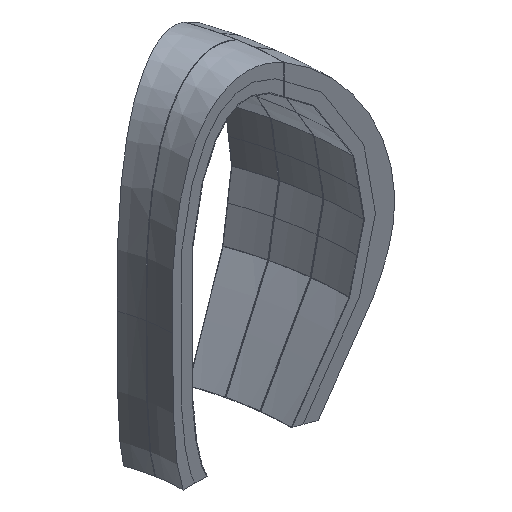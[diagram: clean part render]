
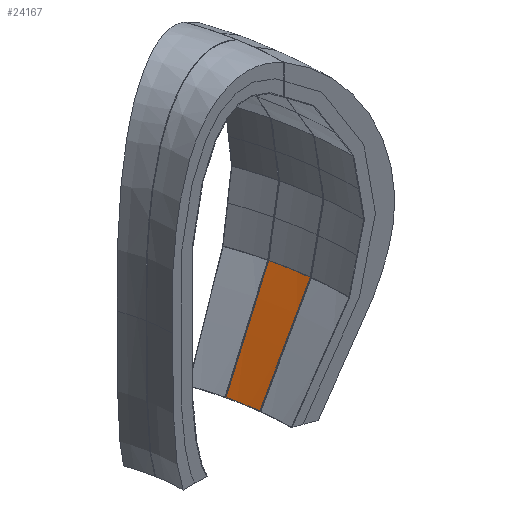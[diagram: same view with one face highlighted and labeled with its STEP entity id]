
A CAD part, isometric view. The second image highlights one B-rep face of the part: STEP entity #24167.
In plain terms, the highlighted conical face has half-angle 34.449 degrees and reference radius 11799.1 mm.
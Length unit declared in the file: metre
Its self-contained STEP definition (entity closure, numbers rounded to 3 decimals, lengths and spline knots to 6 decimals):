
#22973 = PLANE('',#22974);
#22974 = AXIS2_PLACEMENT_3D('',#22975,#22976,#22977);
#22975 = CARTESIAN_POINT('',(10.805535,1.273054,
    -0.034838));
#22976 = DIRECTION('',(0.116,-0.993,-0.));
#22977 = DIRECTION('',(0.,0.,-1.));
#23036 = PLANE('',#23037);
#23037 = AXIS2_PLACEMENT_3D('',#23038,#23039,#23040);
#23038 = CARTESIAN_POINT('',(10.589292,2.499431,
    -0.034838));
#23039 = DIRECTION('',(0.231,-0.973,-0.));
#23040 = DIRECTION('',(0.,0.,-1.));
#23290 = VERTEX_POINT('',#23291);
#23291 = CARTESIAN_POINT('',(11.718153,1.379724,
    -2.309038));
#23306 = CONICAL_SURFACE('',#23307,12.353104,0.242);
#23307 = AXIS2_PLACEMENT_3D('',#23308,#23309,#23310);
#23308 = CARTESIAN_POINT('',(0.,0.,-0.065718));
#23309 = DIRECTION('',(0.,0.,1.));
#23310 = DIRECTION('',(1.,0.,0.));
#23321 = EDGE_CURVE('',#23290,#23322,#23324,.T.);
#23322 = VERTEX_POINT('',#23323);
#23323 = CARTESIAN_POINT('',(9.574088,1.129118,
    -5.455879));
#23324 = SURFACE_CURVE('',#23325,(#23330,#23337),.PCURVE_S1.);
#23325 = HYPERBOLA('',#23326,0.014578,0.01);
#23326 = AXIS2_PLACEMENT_3D('',#23327,#23328,#23329);
#23327 = CARTESIAN_POINT('',(-0.001161,0.009932,
    -19.509468));
#23328 = DIRECTION('',(0.116,-0.993,-0.));
#23329 = DIRECTION('',(0.,-0.,1.));
#23330 = PCURVE('',#22973,#23331);
#23331 = DEFINITIONAL_REPRESENTATION('',(#23332),#23336);
#23332 = ( BOUNDED_CURVE() B_SPLINE_CURVE(2,(#23333,#23334,#23335),
.UNSPECIFIED.,.F.,.F.) B_SPLINE_CURVE_WITH_KNOTS((3,3),(-7.76634,
-7.564284),.PIECEWISE_BEZIER_KNOTS.) CURVE() 
GEOMETRIC_REPRESENTATION_ITEM() RATIONAL_B_SPLINE_CURVE((1.,
1.005,1.)) REPRESENTATION_ITEM('') );
#23333 = CARTESIAN_POINT('',(2.274,0.919));
#23334 = CARTESIAN_POINT('',(4.006,-0.269));
#23335 = CARTESIAN_POINT('',(5.421,-1.24));
#23336 = ( GEOMETRIC_REPRESENTATION_CONTEXT(2) 
PARAMETRIC_REPRESENTATION_CONTEXT() REPRESENTATION_CONTEXT('2D SPACE',''
  ) );
#23337 = PCURVE('',#23338,#23343);
#23338 = CONICAL_SURFACE('',#23339,11.7991,0.601);
#23339 = AXIS2_PLACEMENT_3D('',#23340,#23341,#23342);
#23340 = CARTESIAN_POINT('',(0.,0.,-2.309038));
#23341 = DIRECTION('',(0.,0.,1.));
#23342 = DIRECTION('',(1.,0.,0.));
#23343 = DEFINITIONAL_REPRESENTATION('',(#23344),#23351);
#23344 = B_SPLINE_CURVE_WITH_KNOTS('',5,(#23345,#23346,#23347,#23348,
    #23349,#23350),.UNSPECIFIED.,.F.,.F.,(6,6),(-7.76634,
    -7.564284),.PIECEWISE_BEZIER_KNOTS.);
#23345 = CARTESIAN_POINT('',(0.117,0.));
#23346 = CARTESIAN_POINT('',(0.117,-0.695));
#23347 = CARTESIAN_POINT('',(0.117,-1.355));
#23348 = CARTESIAN_POINT('',(0.117,-1.982));
#23349 = CARTESIAN_POINT('',(0.117,-2.579));
#23350 = CARTESIAN_POINT('',(0.117,-3.147));
#23351 = ( GEOMETRIC_REPRESENTATION_CONTEXT(2) 
PARAMETRIC_REPRESENTATION_CONTEXT() REPRESENTATION_CONTEXT('2D SPACE',''
  ) );
#23370 = CONICAL_SURFACE('',#23371,11.567405,1.309);
#23371 = AXIS2_PLACEMENT_3D('',#23372,#23373,#23374);
#23372 = CARTESIAN_POINT('',(0.,0.,-5.972207));
#23373 = DIRECTION('',(-0.,-0.,-1.));
#23374 = DIRECTION('',(1.,0.,-0.));
#23759 = VERTEX_POINT('',#23760);
#23760 = CARTESIAN_POINT('',(11.483355,2.711328,
    -2.309038));
#23785 = EDGE_CURVE('',#23759,#23786,#23788,.T.);
#23786 = VERTEX_POINT('',#23787);
#23787 = CARTESIAN_POINT('',(9.382881,2.213507,
    -5.455879));
#23788 = SURFACE_CURVE('',#23789,(#23794,#23801),.PCURVE_S1.);
#23789 = HYPERBOLA('',#23790,0.014578,0.01);
#23790 = AXIS2_PLACEMENT_3D('',#23791,#23792,#23793);
#23791 = CARTESIAN_POINT('',(0.002306,-0.00973,
    -19.509468));
#23792 = DIRECTION('',(0.231,-0.973,-0.));
#23793 = DIRECTION('',(0.,-0.,1.));
#23794 = PCURVE('',#23036,#23795);
#23795 = DEFINITIONAL_REPRESENTATION('',(#23796),#23800);
#23796 = ( BOUNDED_CURVE() B_SPLINE_CURVE(2,(#23797,#23798,#23799),
.UNSPECIFIED.,.F.,.F.) B_SPLINE_CURVE_WITH_KNOTS((3,3),(-7.76634,
-7.564284),.PIECEWISE_BEZIER_KNOTS.) CURVE() 
GEOMETRIC_REPRESENTATION_ITEM() RATIONAL_B_SPLINE_CURVE((1.,
1.005,1.)) REPRESENTATION_ITEM('') );
#23797 = CARTESIAN_POINT('',(2.274,0.919));
#23798 = CARTESIAN_POINT('',(4.006,-0.269));
#23799 = CARTESIAN_POINT('',(5.421,-1.24));
#23800 = ( GEOMETRIC_REPRESENTATION_CONTEXT(2) 
PARAMETRIC_REPRESENTATION_CONTEXT() REPRESENTATION_CONTEXT('2D SPACE',''
  ) );
#23801 = PCURVE('',#23338,#23802);
#23802 = DEFINITIONAL_REPRESENTATION('',(#23803),#23810);
#23803 = B_SPLINE_CURVE_WITH_KNOTS('',5,(#23804,#23805,#23806,#23807,
    #23808,#23809),.UNSPECIFIED.,.F.,.F.,(6,6),(-7.76634,
    -7.564284),.PIECEWISE_BEZIER_KNOTS.);
#23804 = CARTESIAN_POINT('',(0.232,0.));
#23805 = CARTESIAN_POINT('',(0.232,-0.695));
#23806 = CARTESIAN_POINT('',(0.232,-1.355));
#23807 = CARTESIAN_POINT('',(0.232,-1.982));
#23808 = CARTESIAN_POINT('',(0.232,-2.579));
#23809 = CARTESIAN_POINT('',(0.232,-3.147));
#23810 = ( GEOMETRIC_REPRESENTATION_CONTEXT(2) 
PARAMETRIC_REPRESENTATION_CONTEXT() REPRESENTATION_CONTEXT('2D SPACE',''
  ) );
#24146 = EDGE_CURVE('',#23322,#23786,#24147,.T.);
#24147 = SURFACE_CURVE('',#24148,(#24153,#24160),.PCURVE_S1.);
#24148 = CIRCLE('',#24149,9.640439);
#24149 = AXIS2_PLACEMENT_3D('',#24150,#24151,#24152);
#24150 = CARTESIAN_POINT('',(0.,0.,-5.455879));
#24151 = DIRECTION('',(0.,0.,1.));
#24152 = DIRECTION('',(1.,0.,-0.));
#24153 = PCURVE('',#23370,#24154);
#24154 = DEFINITIONAL_REPRESENTATION('',(#24155),#24159);
#24155 = LINE('',#24156,#24157);
#24156 = CARTESIAN_POINT('',(-0.,-0.516));
#24157 = VECTOR('',#24158,1.);
#24158 = DIRECTION('',(-1.,-0.));
#24159 = ( GEOMETRIC_REPRESENTATION_CONTEXT(2) 
PARAMETRIC_REPRESENTATION_CONTEXT() REPRESENTATION_CONTEXT('2D SPACE',''
  ) );
#24160 = PCURVE('',#23338,#24161);
#24161 = DEFINITIONAL_REPRESENTATION('',(#24162),#24166);
#24162 = LINE('',#24163,#24164);
#24163 = CARTESIAN_POINT('',(0.,-3.147));
#24164 = VECTOR('',#24165,1.);
#24165 = DIRECTION('',(1.,-0.));
#24166 = ( GEOMETRIC_REPRESENTATION_CONTEXT(2) 
PARAMETRIC_REPRESENTATION_CONTEXT() REPRESENTATION_CONTEXT('2D SPACE',''
  ) );
#24167 = ADVANCED_FACE('',(#24168),#23338,.F.);
#24168 = FACE_BOUND('',#24169,.T.);
#24169 = EDGE_LOOP('',(#24170,#24171,#24193,#24194));
#24170 = ORIENTED_EDGE('',*,*,#23321,.F.);
#24171 = ORIENTED_EDGE('',*,*,#24172,.T.);
#24172 = EDGE_CURVE('',#23290,#23759,#24173,.T.);
#24173 = SURFACE_CURVE('',#24174,(#24179,#24186),.PCURVE_S1.);
#24174 = CIRCLE('',#24175,11.7991);
#24175 = AXIS2_PLACEMENT_3D('',#24176,#24177,#24178);
#24176 = CARTESIAN_POINT('',(0.,0.,-2.309038));
#24177 = DIRECTION('',(0.,0.,1.));
#24178 = DIRECTION('',(1.,0.,-0.));
#24179 = PCURVE('',#23338,#24180);
#24180 = DEFINITIONAL_REPRESENTATION('',(#24181),#24185);
#24181 = LINE('',#24182,#24183);
#24182 = CARTESIAN_POINT('',(0.,-0.));
#24183 = VECTOR('',#24184,1.);
#24184 = DIRECTION('',(1.,-0.));
#24185 = ( GEOMETRIC_REPRESENTATION_CONTEXT(2) 
PARAMETRIC_REPRESENTATION_CONTEXT() REPRESENTATION_CONTEXT('2D SPACE',''
  ) );
#24186 = PCURVE('',#23306,#24187);
#24187 = DEFINITIONAL_REPRESENTATION('',(#24188),#24192);
#24188 = LINE('',#24189,#24190);
#24189 = CARTESIAN_POINT('',(0.,-2.243));
#24190 = VECTOR('',#24191,1.);
#24191 = DIRECTION('',(1.,-0.));
#24192 = ( GEOMETRIC_REPRESENTATION_CONTEXT(2) 
PARAMETRIC_REPRESENTATION_CONTEXT() REPRESENTATION_CONTEXT('2D SPACE',''
  ) );
#24193 = ORIENTED_EDGE('',*,*,#23785,.T.);
#24194 = ORIENTED_EDGE('',*,*,#24146,.F.);
